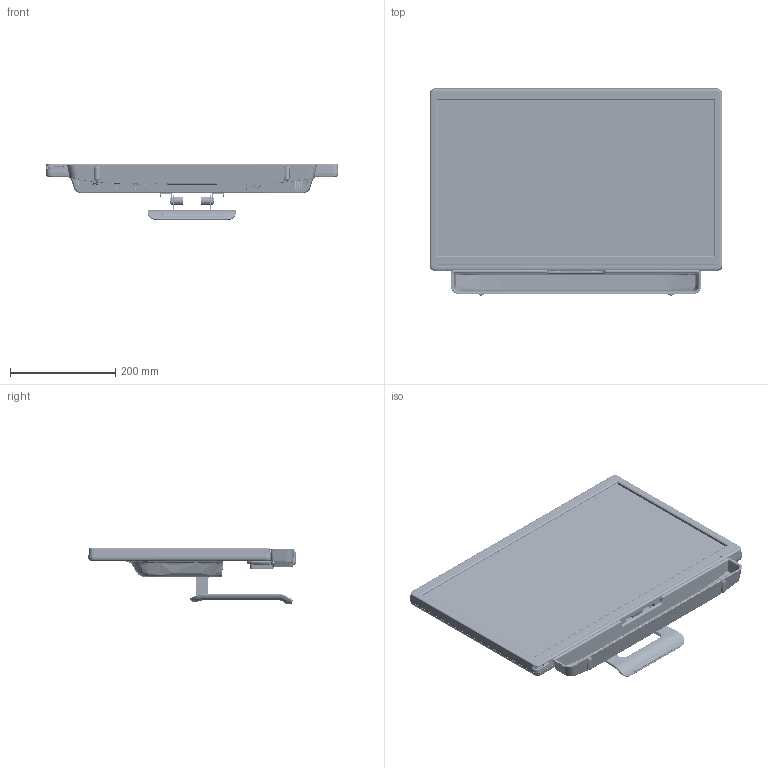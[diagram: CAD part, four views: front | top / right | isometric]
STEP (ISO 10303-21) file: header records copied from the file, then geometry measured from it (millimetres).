
FILE_DESCRIPTION (( 'STEP AP214' ), '1' );
FILE_NAME ('997-6399.STEP', '2016-07-19T20:11:49', ( '' ), ( '' ), 'SwSTEP 2.0', 'SolidWorks 2016', '' );
FILE_SCHEMA (( 'AUTOMOTIVE_DESIGN' ));
Length unit declared in the file: millimetre
Products named in the file (1): 997-6399
Bounding box: 555.87 x 393.66 x 108.01 mm (x, y, z)
Surface area: 1878568.1 mm2 (no closed solid volume)
Topology: 0 solids, 158 shells, 13379 faces, 38535 edges, 25389 vertices
Faces by surface type: plane 9134, cylinder 3123, bspline 876, cone 234, torus 12
Entity records: 668801 total; most frequent: CARTESIAN_POINT 231164, ORIENTED_EDGE 75683, DIRECTION 57521, EDGE_CURVE 38494, VECTOR 25805, LINE 25805, VERTEX_POINT 25389, AXIS2_PLACEMENT_3D 15858
